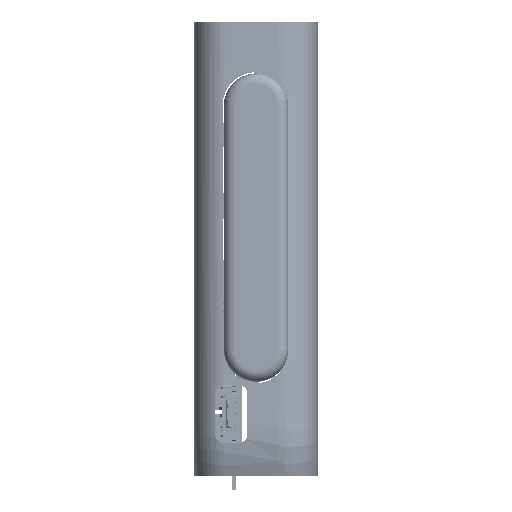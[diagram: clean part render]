
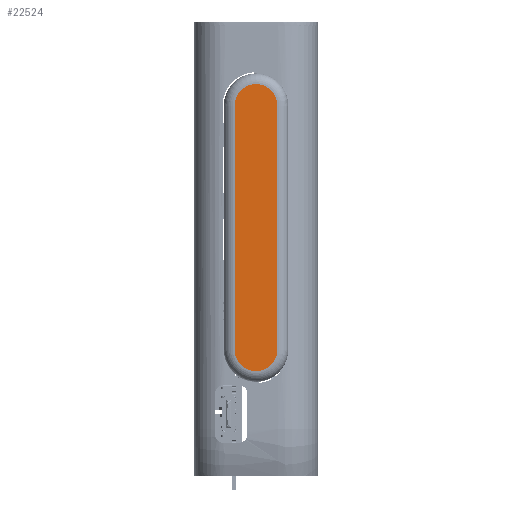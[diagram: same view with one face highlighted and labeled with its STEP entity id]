
A CAD part, left-side view. The second image highlights one B-rep face of the part: STEP entity #22524.
In plain terms, the highlighted planar face has unit normal (-1, 0, 0).
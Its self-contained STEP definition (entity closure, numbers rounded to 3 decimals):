
#21885 = TOROIDAL_SURFACE('',#21886,5.,2.5);
#21886 = AXIS2_PLACEMENT_3D('',#21887,#21888,#21889);
#21887 = CARTESIAN_POINT('',(-44.3,0.,28.5));
#21888 = DIRECTION('',(-1.,0.,0.));
#21889 = DIRECTION('',(0.,1.,0.));
#21900 = EDGE_CURVE('',#21901,#21903,#21905,.T.);
#21901 = VERTEX_POINT('',#21902);
#21902 = CARTESIAN_POINT('',(-46.8,5.,28.5));
#21903 = VERTEX_POINT('',#21904);
#21904 = CARTESIAN_POINT('',(-46.8,-5.,28.5));
#21905 = SURFACE_CURVE('',#21906,(#21911,#21918),.PCURVE_S1.);
#21906 = CIRCLE('',#21907,5.);
#21907 = AXIS2_PLACEMENT_3D('',#21908,#21909,#21910);
#21908 = CARTESIAN_POINT('',(-46.8,0.,28.5));
#21909 = DIRECTION('',(1.,0.,-0.));
#21910 = DIRECTION('',(0.,1.,0.));
#21911 = PCURVE('',#21885,#21912);
#21912 = DEFINITIONAL_REPRESENTATION('',(#21913),#21917);
#21913 = LINE('',#21914,#21915);
#21914 = CARTESIAN_POINT('',(6.283,1.571));
#21915 = VECTOR('',#21916,1.);
#21916 = DIRECTION('',(-1.,0.));
#21917 = ( GEOMETRIC_REPRESENTATION_CONTEXT(2) 
PARAMETRIC_REPRESENTATION_CONTEXT() REPRESENTATION_CONTEXT('2D SPACE',''
  ) );
#21918 = PCURVE('',#21919,#21924);
#21919 = PLANE('',#21920);
#21920 = AXIS2_PLACEMENT_3D('',#21921,#21922,#21923);
#21921 = CARTESIAN_POINT('',(-46.8,0.,0.));
#21922 = DIRECTION('',(-1.,0.,0.));
#21923 = DIRECTION('',(0.,0.,1.));
#21924 = DEFINITIONAL_REPRESENTATION('',(#21925),#21933);
#21925 = ( BOUNDED_CURVE() B_SPLINE_CURVE(2,(#21926,#21927,#21928,#21929
    ,#21930,#21931,#21932),.UNSPECIFIED.,.T.,.F.) 
B_SPLINE_CURVE_WITH_KNOTS((1,2,2,2,2,1),(-2.094,0.,
    2.094,4.189,6.283,8.378),
.UNSPECIFIED.) CURVE() GEOMETRIC_REPRESENTATION_ITEM() 
RATIONAL_B_SPLINE_CURVE((1.,0.5,1.,0.5,1.,0.5,1.)) REPRESENTATION_ITEM(
  '') );
#21926 = CARTESIAN_POINT('',(28.5,5.));
#21927 = CARTESIAN_POINT('',(37.16,5.));
#21928 = CARTESIAN_POINT('',(32.83,-2.5));
#21929 = CARTESIAN_POINT('',(28.5,-10.));
#21930 = CARTESIAN_POINT('',(24.17,-2.5));
#21931 = CARTESIAN_POINT('',(19.84,5.));
#21932 = CARTESIAN_POINT('',(28.5,5.));
#21933 = ( GEOMETRIC_REPRESENTATION_CONTEXT(2) 
PARAMETRIC_REPRESENTATION_CONTEXT() REPRESENTATION_CONTEXT('2D SPACE',''
  ) );
#21949 = CYLINDRICAL_SURFACE('',#21950,2.5);
#21950 = AXIS2_PLACEMENT_3D('',#21951,#21952,#21953);
#21951 = CARTESIAN_POINT('',(-44.3,-5.,28.5));
#21952 = DIRECTION('',(0.,0.,-1.));
#21953 = DIRECTION('',(0.,-1.,0.));
#21975 = CYLINDRICAL_SURFACE('',#21976,2.5);
#21976 = AXIS2_PLACEMENT_3D('',#21977,#21978,#21979);
#21977 = CARTESIAN_POINT('',(-44.3,5.,-28.5));
#21978 = DIRECTION('',(0.,0.,1.));
#21979 = DIRECTION('',(0.,1.,0.));
#22476 = VERTEX_POINT('',#22477);
#22477 = CARTESIAN_POINT('',(-46.8,5.,-28.5));
#22491 = TOROIDAL_SURFACE('',#22492,5.,2.5);
#22492 = AXIS2_PLACEMENT_3D('',#22493,#22494,#22495);
#22493 = CARTESIAN_POINT('',(-44.3,0.,-28.5));
#22494 = DIRECTION('',(-1.,0.,0.));
#22495 = DIRECTION('',(0.,-1.,0.));
#22502 = EDGE_CURVE('',#22476,#21901,#22503,.T.);
#22503 = SURFACE_CURVE('',#22504,(#22508,#22515),.PCURVE_S1.);
#22504 = LINE('',#22505,#22506);
#22505 = CARTESIAN_POINT('',(-46.8,5.,-28.5));
#22506 = VECTOR('',#22507,1.);
#22507 = DIRECTION('',(0.,0.,1.));
#22508 = PCURVE('',#21975,#22509);
#22509 = DEFINITIONAL_REPRESENTATION('',(#22510),#22514);
#22510 = LINE('',#22511,#22512);
#22511 = CARTESIAN_POINT('',(1.571,0.));
#22512 = VECTOR('',#22513,1.);
#22513 = DIRECTION('',(0.,1.));
#22514 = ( GEOMETRIC_REPRESENTATION_CONTEXT(2) 
PARAMETRIC_REPRESENTATION_CONTEXT() REPRESENTATION_CONTEXT('2D SPACE',''
  ) );
#22515 = PCURVE('',#21919,#22516);
#22516 = DEFINITIONAL_REPRESENTATION('',(#22517),#22521);
#22517 = LINE('',#22518,#22519);
#22518 = CARTESIAN_POINT('',(-28.5,5.));
#22519 = VECTOR('',#22520,1.);
#22520 = DIRECTION('',(1.,0.));
#22521 = ( GEOMETRIC_REPRESENTATION_CONTEXT(2) 
PARAMETRIC_REPRESENTATION_CONTEXT() REPRESENTATION_CONTEXT('2D SPACE',''
  ) );
#22524 = ADVANCED_FACE('',(#22525),#21919,.T.);
#22525 = FACE_BOUND('',#22526,.T.);
#22526 = EDGE_LOOP('',(#22527,#22528,#22529,#22557));
#22527 = ORIENTED_EDGE('',*,*,#21900,.F.);
#22528 = ORIENTED_EDGE('',*,*,#22502,.F.);
#22529 = ORIENTED_EDGE('',*,*,#22530,.F.);
#22530 = EDGE_CURVE('',#22531,#22476,#22533,.T.);
#22531 = VERTEX_POINT('',#22532);
#22532 = CARTESIAN_POINT('',(-46.8,-5.,-28.5));
#22533 = SURFACE_CURVE('',#22534,(#22539,#22550),.PCURVE_S1.);
#22534 = CIRCLE('',#22535,5.);
#22535 = AXIS2_PLACEMENT_3D('',#22536,#22537,#22538);
#22536 = CARTESIAN_POINT('',(-46.8,0.,-28.5));
#22537 = DIRECTION('',(1.,0.,0.));
#22538 = DIRECTION('',(0.,-1.,0.));
#22539 = PCURVE('',#21919,#22540);
#22540 = DEFINITIONAL_REPRESENTATION('',(#22541),#22549);
#22541 = ( BOUNDED_CURVE() B_SPLINE_CURVE(2,(#22542,#22543,#22544,#22545
    ,#22546,#22547,#22548),.UNSPECIFIED.,.T.,.F.) 
B_SPLINE_CURVE_WITH_KNOTS((1,2,2,2,2,1),(-2.094,0.,
    2.094,4.189,6.283,8.378),
.UNSPECIFIED.) CURVE() GEOMETRIC_REPRESENTATION_ITEM() 
RATIONAL_B_SPLINE_CURVE((1.,0.5,1.,0.5,1.,0.5,1.)) REPRESENTATION_ITEM(
  '') );
#22542 = CARTESIAN_POINT('',(-28.5,-5.));
#22543 = CARTESIAN_POINT('',(-37.16,-5.));
#22544 = CARTESIAN_POINT('',(-32.83,2.5));
#22545 = CARTESIAN_POINT('',(-28.5,10.));
#22546 = CARTESIAN_POINT('',(-24.17,2.5));
#22547 = CARTESIAN_POINT('',(-19.84,-5.));
#22548 = CARTESIAN_POINT('',(-28.5,-5.));
#22549 = ( GEOMETRIC_REPRESENTATION_CONTEXT(2) 
PARAMETRIC_REPRESENTATION_CONTEXT() REPRESENTATION_CONTEXT('2D SPACE',''
  ) );
#22550 = PCURVE('',#22491,#22551);
#22551 = DEFINITIONAL_REPRESENTATION('',(#22552),#22556);
#22552 = LINE('',#22553,#22554);
#22553 = CARTESIAN_POINT('',(6.283,1.571));
#22554 = VECTOR('',#22555,1.);
#22555 = DIRECTION('',(-1.,0.));
#22556 = ( GEOMETRIC_REPRESENTATION_CONTEXT(2) 
PARAMETRIC_REPRESENTATION_CONTEXT() REPRESENTATION_CONTEXT('2D SPACE',''
  ) );
#22557 = ORIENTED_EDGE('',*,*,#22558,.F.);
#22558 = EDGE_CURVE('',#21903,#22531,#22559,.T.);
#22559 = SURFACE_CURVE('',#22560,(#22564,#22571),.PCURVE_S1.);
#22560 = LINE('',#22561,#22562);
#22561 = CARTESIAN_POINT('',(-46.8,-5.,28.5));
#22562 = VECTOR('',#22563,1.);
#22563 = DIRECTION('',(0.,0.,-1.));
#22564 = PCURVE('',#21919,#22565);
#22565 = DEFINITIONAL_REPRESENTATION('',(#22566),#22570);
#22566 = LINE('',#22567,#22568);
#22567 = CARTESIAN_POINT('',(28.5,-5.));
#22568 = VECTOR('',#22569,1.);
#22569 = DIRECTION('',(-1.,0.));
#22570 = ( GEOMETRIC_REPRESENTATION_CONTEXT(2) 
PARAMETRIC_REPRESENTATION_CONTEXT() REPRESENTATION_CONTEXT('2D SPACE',''
  ) );
#22571 = PCURVE('',#21949,#22572);
#22572 = DEFINITIONAL_REPRESENTATION('',(#22573),#22577);
#22573 = LINE('',#22574,#22575);
#22574 = CARTESIAN_POINT('',(1.571,0.));
#22575 = VECTOR('',#22576,1.);
#22576 = DIRECTION('',(0.,1.));
#22577 = ( GEOMETRIC_REPRESENTATION_CONTEXT(2) 
PARAMETRIC_REPRESENTATION_CONTEXT() REPRESENTATION_CONTEXT('2D SPACE',''
  ) );
